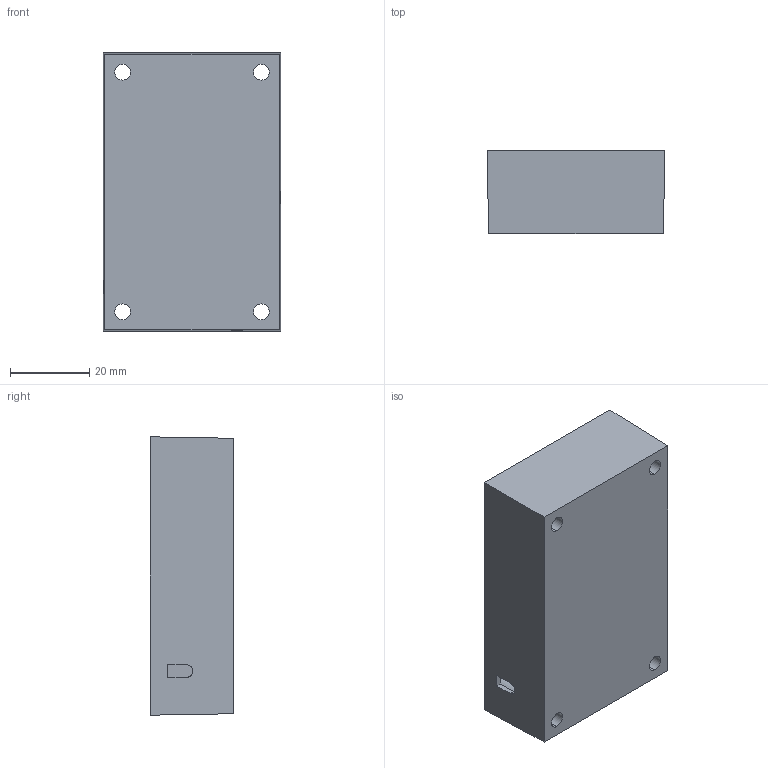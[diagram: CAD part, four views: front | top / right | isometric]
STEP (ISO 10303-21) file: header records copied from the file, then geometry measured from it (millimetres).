
FILE_DESCRIPTION (( 'STEP AP203' ), '1' );
FILE_NAME ('90292.STEP', '2014-03-10T19:35:14', ( 'Vulcan' ), ( 'Hewlett-Packard Company' ), 'SwSTEP 2.0', 'SolidWorks 2013', '' );
FILE_SCHEMA (( 'CONFIG_CONTROL_DESIGN' ));
Length unit declared in the file: inch
Products named in the file (1): 90292
Bounding box: 44.75 x 20.95 x 70.1 mm (x, y, z)
Volume: 15631.6 mm3; surface area: 24566.7 mm2
Topology: 1 solids, 1 shells, 327 faces, 888 edges, 592 vertices
Faces by surface type: plane 200, bspline 108, cylinder 19
Entity records: 15953 total; most frequent: CARTESIAN_POINT 8302, ORIENTED_EDGE 1776, DIRECTION 1138, EDGE_CURVE 888, VECTOR 634, LINE 634, VERTEX_POINT 592, EDGE_LOOP 376
